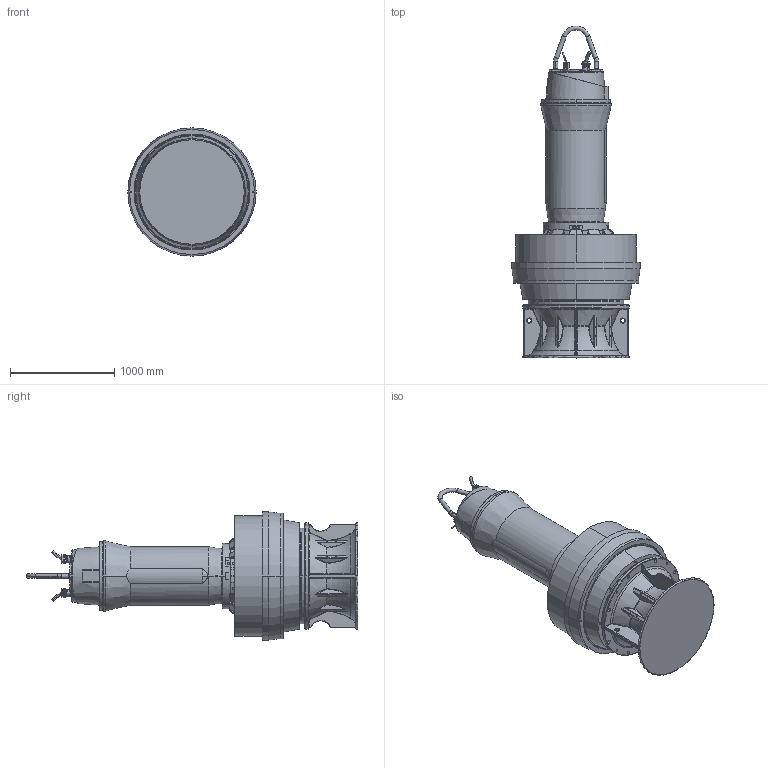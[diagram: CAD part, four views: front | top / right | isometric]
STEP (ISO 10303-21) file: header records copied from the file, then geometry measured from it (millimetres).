
FILE_DESCRIPTION (( 'STEP AP214' ), '1' );
FILE_NAME ('PE6_AFLX1203_STD_C_NG2.STEP', '2017-04-21T08:34:54', ( '' ), ( '' ), 'SwSTEP 2.0', 'SolidWorks 2017', '' );
FILE_SCHEMA (( 'AUTOMOTIVE_DESIGN' ));
Length unit declared in the file: millimetre
Products named in the file (1): PE6_AFLX1203_STD_C_NG2
Bounding box: 1230 x 3184 x 1230 mm (x, y, z)
Volume: 1329030099.5 mm3; surface area: 12508800.6 mm2
Topology: 3 solids, 24 shells, 2646 faces, 6362 edges, 3684 vertices
Faces by surface type: bspline 676, plane 664, cylinder 553, cone 325, torus 309, sphere 119
Entity records: 281178 total; most frequent: CARTESIAN_POINT 196278, ORIENTED_EDGE 12356, DIRECTION 10655, EDGE_CURVE 6178, AXIS2_PLACEMENT_3D 4362, VERTEX_POINT 3683, EDGE_LOOP 2835, UNCERTAINTY_MEASURE_WITH_UNIT 2651
